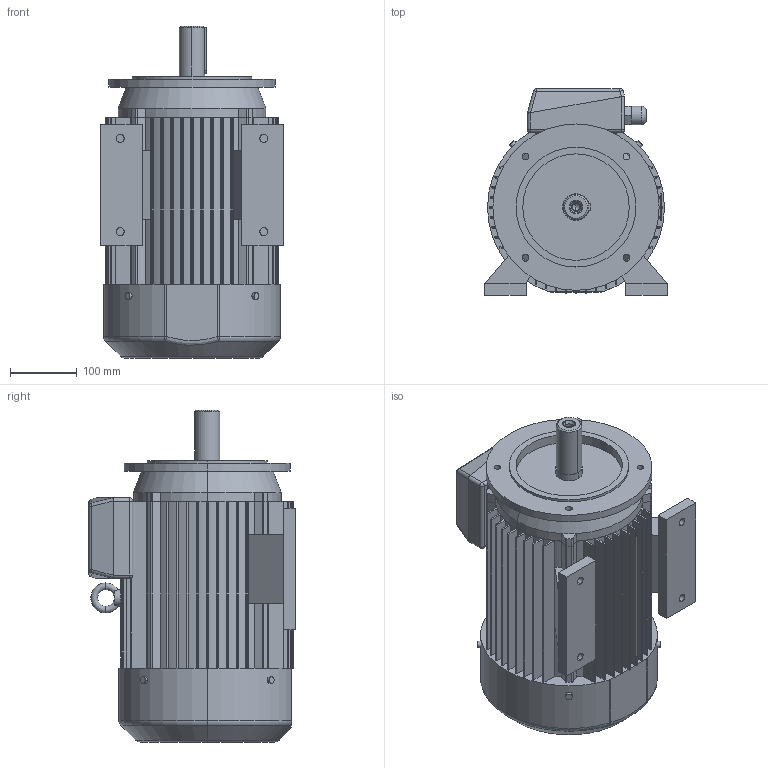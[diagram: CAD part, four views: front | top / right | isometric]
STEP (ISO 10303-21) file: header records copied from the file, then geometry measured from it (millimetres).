
FILE_DESCRIPTION (( 'STEP AP203' ), '1' );
FILE_NAME ('2SIEL132S2B,4-B34-C1.STEP', '2013-01-07T13:23:24', ( 'INDUKTA' ), ( 'CANTONI MOTOR' ), 'SwSTEP 2.0', 'SolidWorks 2003064', '' );
FILE_SCHEMA (( 'CONFIG_CONTROL_DESIGN' ));
Length unit declared in the file: millimetre
Products named in the file (1): 2SIEL132S2B,4-B34-C1
Bounding box: 274 x 310 x 499 mm (x, y, z)
Volume: 20377361.2 mm3; surface area: 1127492.3 mm2
Topology: 14 solids, 14 shells, 422 faces, 1110 edges, 703 vertices
Faces by surface type: cylinder 196, plane 188, cone 14, torus 13, sphere 10, bspline 1
Entity records: 13818 total; most frequent: CARTESIAN_POINT 3090, DIRECTION 2330, ORIENTED_EDGE 2196, EDGE_CURVE 1098, AXIS2_PLACEMENT_3D 847, VERTEX_POINT 703, LINE 636, VECTOR 636
